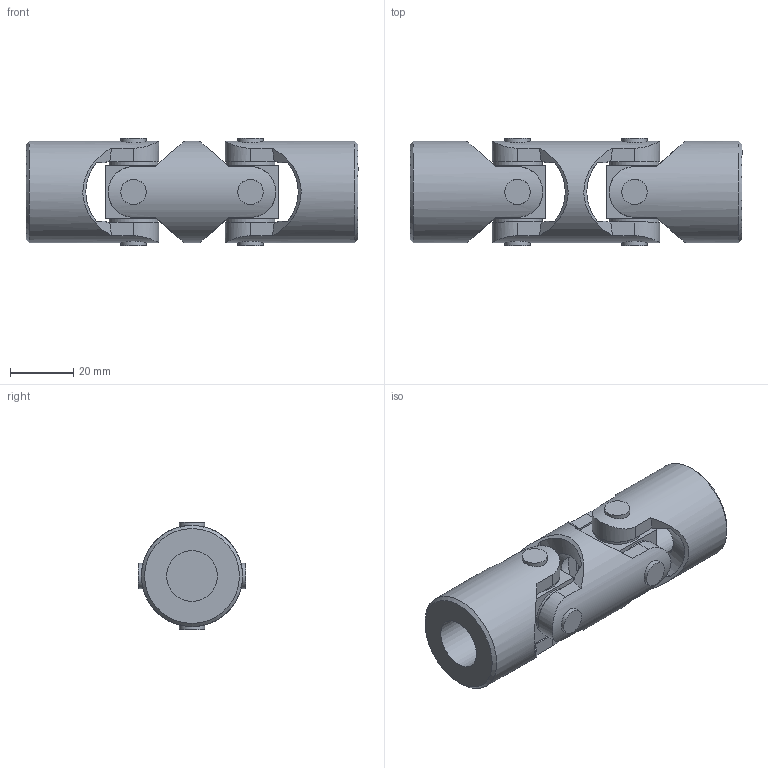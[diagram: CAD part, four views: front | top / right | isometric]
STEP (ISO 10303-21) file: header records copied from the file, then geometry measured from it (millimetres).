
FILE_DESCRIPTION(/* description */ (''),/* implementation_level */ '2;1');
FILE_NAME(/* name */ '\\SRV2016\societa\Stefano\Disegni 3D\0Catalogo 3D\14Doppi XD\Doppi XD file STEP\SX0D1600.stp',/* time_stamp */ '2023-05-24T08:41:35+02:00',/* author */ ('acquisti'),/* organization */ (''),/* preprocessor_version */ 'ST-DEVELOPER v15.6',/* originating_system */ 'Autodesk Inventor 2015',/* authorisation */ '');
FILE_SCHEMA (('AUTOMOTIVE_DESIGN { 1 0 10303 214 3 1 1 }'));
Length unit declared in the file: millimetre
Products named in the file (4): 1X MOD; 1X MOS; 1X SFE; Ø32_1XD_SX0D1600
Assembly tree (5 placements, depth 2):
  Ø32_1XD_SX0D1600
    1X MOD
    1X MOS  x2
    1X SFE  x2
Bounding box: 105 x 34.1 x 34.1 mm (x, y, z)
Volume: 57155.3 mm3; surface area: 21808.2 mm2
Topology: 5 solids, 5 shells, 121 faces, 307 edges, 208 vertices
Faces by surface type: plane 62, cylinder 33, cone 22, torus 4
Full cylindrical faces by diameter (mm): 8 x8, 15.5 x8, 16 x2, 18 x4, 32 x3
Entity records: 2962 total; most frequent: CARTESIAN_POINT 1106, ORIENTED_EDGE 362, DIRECTION 346, EDGE_CURVE 181, AXIS2_PLACEMENT_3D 149, VERTEX_POINT 135, EDGE_LOOP 116, FACE_OUTER_BOUND 82
